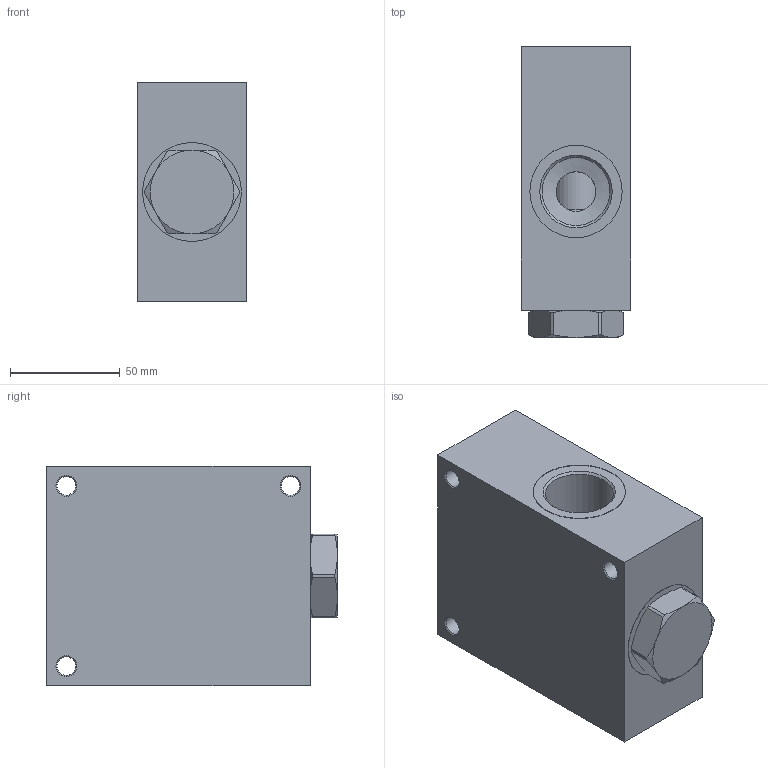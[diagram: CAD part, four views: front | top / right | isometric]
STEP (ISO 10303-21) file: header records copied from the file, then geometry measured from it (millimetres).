
FILE_DESCRIPTION(/* description */ (''),/* implementation_level */ '2;1');
FILE_NAME(/* name */ 'C:\Users\fabio.radici\Desktop\x fede\004-059-000_Shrinkwrap.stp',/* time_stamp */ '2021-03-31T10:00:40+02:00',/* author */ ('Fabio.Radici'),/* organization */ (''),/* preprocessor_version */ 'ST-DEVELOPER v18.1',/* originating_system */ 'Autodesk Inventor 2021',/* authorisation */ '');
FILE_SCHEMA (('AUTOMOTIVE_DESIGN { 1 0 10303 214 3 1 1 }'));
Length unit declared in the file: millimetre
Products named in the file (1): 004-059-000_Shrinkwrap
Bounding box: 50 x 132.37 x 100 mm (x, y, z)
Surface area: 63092.3 mm2 (no closed solid volume)
Topology: 0 solids, 6 shells, 68 faces, 162 edges, 101 vertices
Faces by surface type: cone 27, cylinder 24, plane 17
Full cylindrical faces by diameter (mm): 8.5 x3, 15 x2, 18 x1, 22.276 x3, 24.117 x2, 25.019 x1, 30.734 x1, 30.931 x1, 36 x2, 42 x1, 45 x1
Entity records: 2179 total; most frequent: CARTESIAN_POINT 485, DIRECTION 347, ORIENTED_EDGE 304, EDGE_CURVE 162, AXIS2_PLACEMENT_3D 145, VERTEX_POINT 101, EDGE_LOOP 82, CIRCLE 76
